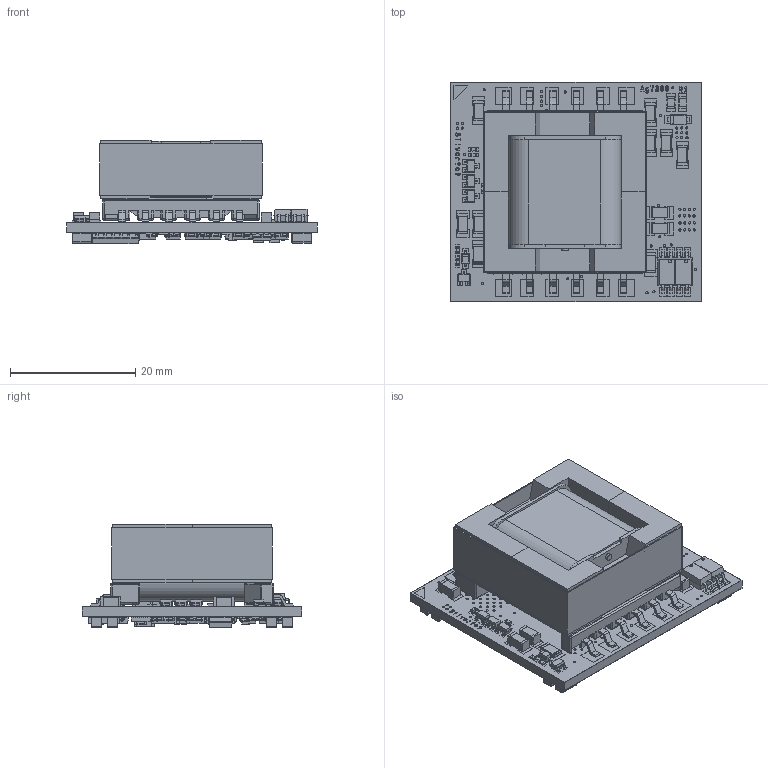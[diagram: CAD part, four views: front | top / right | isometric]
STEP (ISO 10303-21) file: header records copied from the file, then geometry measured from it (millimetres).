
FILE_DESCRIPTION(('FreeCAD Model'),'2;1');
FILE_NAME('Open CASCADE Shape Model','2024-05-31T15:55:55',(''),(''), 'Open CASCADE STEP processor 7.6','FreeCAD','Unknown');
FILE_SCHEMA(('AUTOMOTIVE_DESIGN { 1 0 10303 214 1 1 1 1 }'));
Products named in the file (1): ag7300_step
Bounding box: 39.98 x 34.98 x 16.45 mm (x, y, z)
Surface area: 18758.5 mm2 (no closed solid volume)
Topology: 0 solids, 7976 shells, 7976 faces, 42371 edges, 42326 vertices
Faces by surface type: extrusion 4871, revolution 2211, bspline 894
Entity records: 905485 total; most frequent: CARTESIAN_POINT 247618, DIRECTION 99485, VECTOR 80052, LINE 75181, ORIENTED_EDGE 42326, EDGE_CURVE 42326, VERTEX_POINT 42326, SURFACE_CURVE 42326
